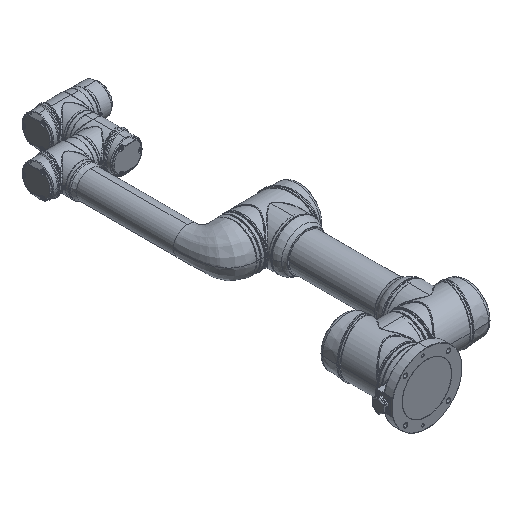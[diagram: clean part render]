
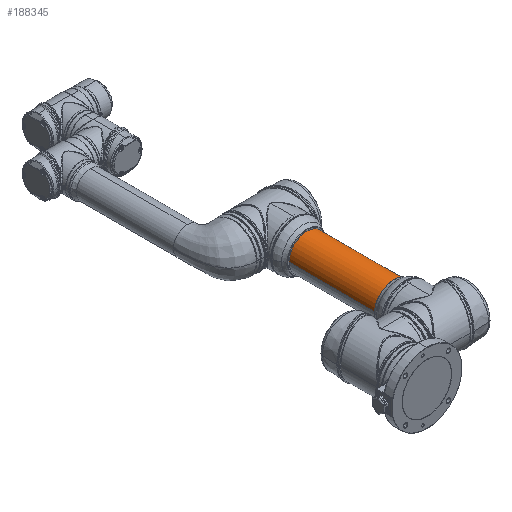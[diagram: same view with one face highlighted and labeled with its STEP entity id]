
A CAD part, isometric view. The second image highlights one B-rep face of the part: STEP entity #188345.
In plain terms, the highlighted cylindrical face has radius 43.5 mm (diameter 87 mm), a partial arc.
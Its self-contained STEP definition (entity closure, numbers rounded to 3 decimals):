
#2597 = DIRECTION ( 'NONE',  ( 0., 1., 0. ) ) ;
#4664 = VECTOR ( 'NONE', #182386, 1000. ) ;
#5031 = DIRECTION ( 'NONE',  ( 0., -1., 0. ) ) ;
#30383 = DIRECTION ( 'NONE',  ( 0., 1., 0. ) ) ;
#48422 = CARTESIAN_POINT ( 'NONE',  ( -43.5, 99., 0. ) ) ;
#49698 = DIRECTION ( 'NONE',  ( 0., -1., 0. ) ) ;
#50596 = CIRCLE ( 'NONE', #186233, 43.5 ) ;
#59888 = CARTESIAN_POINT ( 'NONE',  ( 43.5, 204., 0. ) ) ;
#65949 = VERTEX_POINT ( 'NONE', #48422 ) ;
#74495 = VERTEX_POINT ( 'NONE', #86814 ) ;
#82415 = EDGE_CURVE ( 'NONE', #170990, #65949, #181179, .T. ) ;
#83758 = CIRCLE ( 'NONE', #95950, 43.5 ) ;
#86814 = CARTESIAN_POINT ( 'NONE',  ( 43.5, 99., 0. ) ) ;
#95950 = AXIS2_PLACEMENT_3D ( 'NONE', #137380, #2597, #174949 ) ;
#102900 = CARTESIAN_POINT ( 'NONE',  ( 0., 309., 0. ) ) ;
#106101 = CARTESIAN_POINT ( 'NONE',  ( -43.5, 204., 0. ) ) ;
#116992 = AXIS2_PLACEMENT_3D ( 'NONE', #220902, #49698, #125975 ) ;
#125350 = DIRECTION ( 'NONE',  ( 1., 0., 0. ) ) ;
#125975 = DIRECTION ( 'NONE',  ( -1., 0., 0. ) ) ;
#137380 = CARTESIAN_POINT ( 'NONE',  ( 0., 99., 0. ) ) ;
#140522 = ORIENTED_EDGE ( 'NONE', *, *, #82415, .F. ) ;
#141144 = VECTOR ( 'NONE', #5031, 1000. ) ;
#144703 = CYLINDRICAL_SURFACE ( 'NONE', #116992, 43.5 ) ;
#170990 = VERTEX_POINT ( 'NONE', #173850 ) ;
#173850 = CARTESIAN_POINT ( 'NONE',  ( -43.5, 309., 0. ) ) ;
#174949 = DIRECTION ( 'NONE',  ( 1., 0., 0. ) ) ;
#175221 = EDGE_CURVE ( 'NONE', #74495, #65949, #83758, .T. ) ;
#176139 = LINE ( 'NONE', #59888, #141144 ) ;
#181179 = LINE ( 'NONE', #106101, #4664 ) ;
#182386 = DIRECTION ( 'NONE',  ( 0., -1., 0. ) ) ;
#186233 = AXIS2_PLACEMENT_3D ( 'NONE', #102900, #30383, #125350 ) ;
#188345 = ADVANCED_FACE ( 'NONE', ( #243242 ), #144703, .T. ) ;
#192414 = ORIENTED_EDGE ( 'NONE', *, *, #175221, .T. ) ;
#217614 = EDGE_CURVE ( 'NONE', #242023, #170990, #50596, .T. ) ;
#220902 = CARTESIAN_POINT ( 'NONE',  ( 0., 204., 0. ) ) ;
#221490 = EDGE_CURVE ( 'NONE', #242023, #74495, #176139, .T. ) ;
#225582 = ORIENTED_EDGE ( 'NONE', *, *, #217614, .F. ) ;
#232626 = ORIENTED_EDGE ( 'NONE', *, *, #221490, .T. ) ;
#242023 = VERTEX_POINT ( 'NONE', #246554 ) ;
#242837 = EDGE_LOOP ( 'NONE', ( #225582, #232626, #192414, #140522 ) ) ;
#243242 = FACE_OUTER_BOUND ( 'NONE', #242837, .T. ) ;
#246554 = CARTESIAN_POINT ( 'NONE',  ( 43.5, 309., 0. ) ) ;
